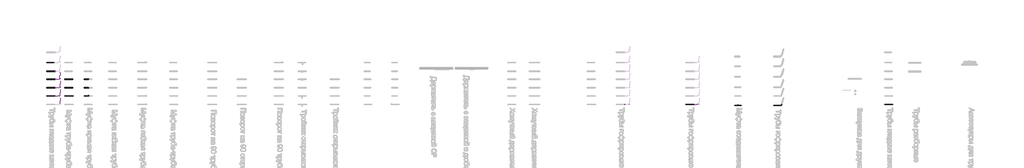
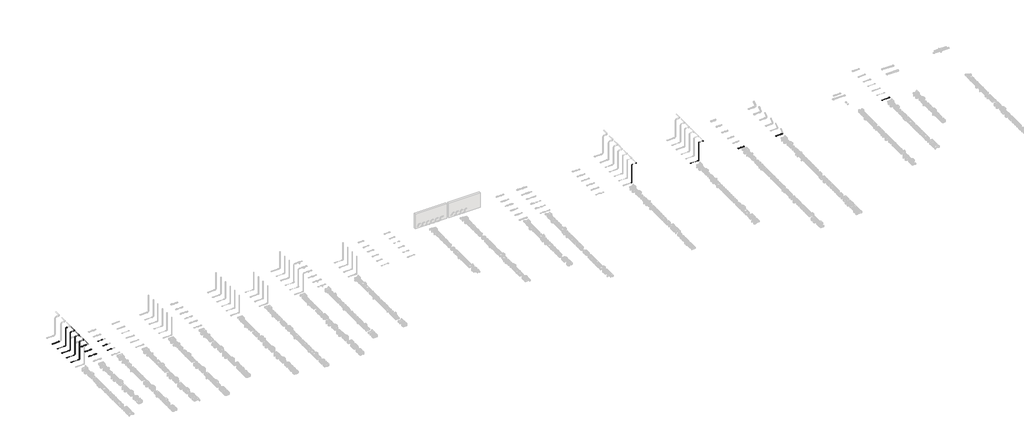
# One storey, part 2 of 33: 36 cable carrier segments, 28 cable carrier fittings.
"""IFC4 building model written with IfcOpenShell, lengths in millimetres."""

from ifc_helpers import new_model, si_unit, point, frame, frame_2d, origin, place, context, project, spatial, circle_curve, trimmed, segment, composite_curve, outline, extrude, transform, mapped, element, save
from components import cable_carrier_fitting_59e1ce25, cable_carrier_fitting_cf1a74b0, cable_carrier_fitting_2f32caac, cable_carrier_fitting_a50456ce, cable_carrier_fitting_6d3d2407, cable_carrier_fitting_577a40cd, cable_carrier_fitting_f652ca61, cable_carrier_fitting_620ca47f, cable_carrier_fitting_216e78f6, cable_carrier_fitting_60fb8931, cable_carrier_fitting_309cf5c9, cable_carrier_fitting_d8a5bbfc, cable_carrier_fitting_6d8e7e4b

model = new_model("IFC4")

# Units and contexts
model_context = context("Model", 3, world=origin())
ifc_project = project(units=[si_unit("LENGTHUNIT", "METRE", prefix="MILLI")], contexts=[model_context])

# Site, building, storey
site = spatial("IfcSite", under=ifc_project)
building = spatial("IfcBuilding", under=site)
storey = spatial("IfcBuildingStorey", under=building, Name="Уровень 1", Elevation=0.0)

# Cable carrier fittings
placement = place(None, origin())
cable_carrier_fitting_shape = cable_carrier_fitting_59e1ce25(model_context)
element("IfcCableCarrierFitting", 1, ObjectType="Муфта труба-труба GIG IEK : CTA10D-GIG20-K41-100", at=placement, inside=storey, context=model_context, shape_type="MappedRepresentation", body=[
    mapped(cable_carrier_fitting_shape, transform((5275.1189897, 1027.6255993, 45.929251), x_axis=(1.0, 0.0, 0.0), y_axis=(0.0, 1.0, 0.0), z_axis=(0.0, 0.0, 1.0))),
])
element("IfcCableCarrierFitting", 2, ObjectType="Муфта труба-труба GIG IEK : CTA10D-GIG20-K41-100", at=placement, inside=storey, context=model_context, shape_type="MappedRepresentation", body=[
    mapped(cable_carrier_fitting_shape, transform((5793.6746362, 1027.6255993, 45.929251), x_axis=(1.0, 0.0, 0.0), y_axis=(0.0, 1.0, 0.0), z_axis=(0.0, 0.0, 1.0))),
])
cable_carrier_fitting_2_shape = cable_carrier_fitting_cf1a74b0(model_context)
element("IfcCableCarrierFitting", 3, ObjectType="Муфта труба-труба GIG IEK : CTA10D-GIG25-K41-050", at=placement, inside=storey, context=model_context, shape_type="MappedRepresentation", body=[
    mapped(cable_carrier_fitting_2_shape, transform((5280.100622, 2047.6255993, 45.929251), x_axis=(1.0, 0.0, 0.0), y_axis=(0.0, 1.0, 0.0), z_axis=(0.0, 0.0, 1.0))),
])
element("IfcCableCarrierFitting", 4, ObjectType="Муфта труба-труба GIG IEK : CTA10D-GIG25-K41-050", at=placement, inside=storey, context=model_context, shape_type="MappedRepresentation", body=[
    mapped(cable_carrier_fitting_2_shape, transform((5737.4329559, 2047.6255993, 45.929251), x_axis=(1.0, 0.0, 0.0), y_axis=(0.0, 1.0, 0.0), z_axis=(0.0, 0.0, 1.0))),
])
cable_carrier_fitting_3_shape = cable_carrier_fitting_2f32caac(model_context)
element("IfcCableCarrierFitting", 5, ObjectType="Муфта труба-труба GIG IEK : CTA10D-GIG32-K41-025", at=placement, inside=storey, context=model_context, shape_type="MappedRepresentation", body=[
    mapped(cable_carrier_fitting_3_shape, transform((5302.7919038, 3107.6255993, 45.929251), x_axis=(1.0, 0.0, 0.0), y_axis=(0.0, 1.0, 0.0), z_axis=(0.0, 0.0, 1.0))),
])
element("IfcCableCarrierFitting", 6, ObjectType="Муфта труба-труба GIG IEK : CTA10D-GIG32-K41-025", at=placement, inside=storey, context=model_context, shape_type="MappedRepresentation", body=[
    mapped(cable_carrier_fitting_3_shape, transform((5694.3887422, 3107.6255993, 45.929251), x_axis=(1.0, 0.0, 0.0), y_axis=(0.0, 1.0, 0.0), z_axis=(0.0, 0.0, 1.0))),
])
cable_carrier_fitting_4_shape = cable_carrier_fitting_a50456ce(model_context)
element("IfcCableCarrierFitting", 7, ObjectType="Отвод Трубы гофрированные гибкие ПНД : Отвод Трубы гофрированные гибкие ПНД", at=placement, inside=storey, context=model_context, shape_type="MappedRepresentation", body=[
    mapped(cable_carrier_fitting_4_shape, transform((83794.4472755, -32.3744007, 45.929251), x_axis=(1.0, 0.0, 0.0), y_axis=(0.0, 0.0, 1.0), z_axis=(0.0, -1.0, 0.0))),
])
element("IfcCableCarrierFitting", 8, ObjectType="Отвод Трубы гофрированные гибкие ПНД : Отвод Трубы гофрированные гибкие ПНД", at=placement, inside=storey, context=model_context, shape_type="MappedRepresentation", body=[
    mapped(cable_carrier_fitting_4_shape, transform((83794.4472755, -32.3744007, 2545.929251), x_axis=(0.0, 0.0, 1.0), y_axis=(1.0, 0.0, 0.0), z_axis=(0.0, 1.0, 0.0))),
])
element("IfcCableCarrierFitting", 9, ObjectType="Отвод Трубы гофрированные гибкие ПНД : Отвод Трубы гофрированные гибкие ПНД", at=placement, inside=storey, context=model_context, shape_type="MappedRepresentation", body=[
    mapped(cable_carrier_fitting_4_shape, transform((84394.4472755, -32.3744007, 2545.929251), x_axis=(1.0, 0.0, 0.0), y_axis=(0.0, 1.0, 0.0), z_axis=(0.0, 0.0, 1.0))),
])
element("IfcCableCarrierFitting", 10, ObjectType="Отвод Трубы гофрированные ПВХ с зондом : Отвод Трубы гофрированные ПВХ с зондом", at=placement, inside=storey, context=model_context, shape_type="MappedRepresentation", body=[
    mapped(cable_carrier_fitting_4_shape, transform((75094.4472755, -32.3744007, 45.929251), x_axis=(1.0, 0.0, 0.0), y_axis=(0.0, 0.0, 1.0), z_axis=(0.0, -1.0, 0.0))),
])
element("IfcCableCarrierFitting", 11, ObjectType="Отвод Трубы гофрированные ПВХ с зондом : Отвод Трубы гофрированные ПВХ с зондом", at=placement, inside=storey, context=model_context, shape_type="MappedRepresentation", body=[
    mapped(cable_carrier_fitting_4_shape, transform((75094.4472755, -32.3744007, 2545.929251), x_axis=(0.0, 0.0, 1.0), y_axis=(1.0, 0.0, 0.0), z_axis=(0.0, 1.0, 0.0))),
])
element("IfcCableCarrierFitting", 12, ObjectType="Отвод Трубы гофрированные ПВХ с зондом : Отвод Трубы гофрированные ПВХ с зондом", at=placement, inside=storey, context=model_context, shape_type="MappedRepresentation", body=[
    mapped(cable_carrier_fitting_4_shape, transform((75694.4472755, -32.3744007, 2545.929251), x_axis=(1.0, 0.0, 0.0), y_axis=(0.0, 1.0, 0.0), z_axis=(0.0, 0.0, 1.0))),
])
cable_carrier_fitting_5_shape = cable_carrier_fitting_6d3d2407(model_context)
element("IfcCableCarrierFitting", 13, ObjectType="Муфта соединительная для двустенной трубы : CTA12D-M040-K02", at=placement, inside=storey, context=model_context, shape_type="MappedRepresentation", body=[
    mapped(cable_carrier_fitting_5_shape, transform((89243.3442155, -168.3163533, 45.929251), x_axis=(1.0, 0.0, 0.0), y_axis=(0.0, 1.0, 0.0), z_axis=(0.0, 0.0, 1.0))),
])
cable_carrier_fitting_6_shape = cable_carrier_fitting_577a40cd(model_context)
element("IfcCableCarrierFitting", 14, ObjectType="Муфта прямая труба-коробка BS : CTA10D-BS25-K41-050", at=placement, inside=storey, context=model_context, shape_type="MappedRepresentation", body=[
    mapped(cable_carrier_fitting_6_shape, transform((7941.490316, 2047.6255993, 45.929251), x_axis=(0.9999999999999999, 0.0, 0.0), y_axis=(0.0, 0.9999999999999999, 0.0), z_axis=(0.0, 0.0, 0.9999999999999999))),
])
cable_carrier_fitting_7_shape = cable_carrier_fitting_f652ca61(model_context)
element("IfcCableCarrierFitting", 15, ObjectType="Муфта прямая труба-коробка BS : CTA10D-BS32-K41-025", at=placement, inside=storey, context=model_context, shape_type="MappedRepresentation", body=[
    mapped(cable_carrier_fitting_7_shape, transform((7948.3854169, 3107.6255993, 45.929251), x_axis=(0.9999999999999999, 0.0, 0.0), y_axis=(0.0, 0.9999999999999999, 0.0), z_axis=(0.0, 0.0, 0.9999999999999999))),
])
cable_carrier_fitting_8_shape = cable_carrier_fitting_620ca47f(model_context)
element("IfcCableCarrierFitting", 16, ObjectType="Муфта прямая труба-коробка BS : CTA10D-BS20-K41-050", at=placement, inside=storey, context=model_context, shape_type="MappedRepresentation", body=[
    mapped(cable_carrier_fitting_8_shape, transform((7967.6618975, 1027.6255993, 45.929251), x_axis=(0.9999999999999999, 0.0, 0.0), y_axis=(0.0, 0.9999999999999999, 0.0), z_axis=(0.0, 0.0, 0.9999999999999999))),
])
cable_carrier_fitting_9_shape = cable_carrier_fitting_216e78f6(model_context)
element("IfcCableCarrierFitting", 17, ObjectType="Отвод Трубы гладкие жесткие ПВХ : Отвод Трубы гладкие жесткие ПВХ", at=placement, inside=storey, context=model_context, shape_type="MappedRepresentation", body=[
    mapped(cable_carrier_fitting_9_shape, transform((3794.4472755, 1027.6255993, 45.929251), x_axis=(1.0, 0.0, 0.0), y_axis=(0.0, 0.0, 1.0), z_axis=(0.0, -1.0, 0.0))),
])
element("IfcCableCarrierFitting", 18, ObjectType="Отвод Трубы гладкие жесткие ПВХ : Отвод Трубы гладкие жесткие ПВХ", at=placement, inside=storey, context=model_context, shape_type="MappedRepresentation", body=[
    mapped(cable_carrier_fitting_9_shape, transform((3794.4472755, 1027.6255993, 2545.929251), x_axis=(0.0, 0.0, 1.0), y_axis=(1.0, 0.0, 0.0), z_axis=(0.0, 1.0, 0.0))),
])
element("IfcCableCarrierFitting", 19, ObjectType="Отвод Трубы гладкие жесткие ПВХ : Отвод Трубы гладкие жесткие ПВХ", at=placement, inside=storey, context=model_context, shape_type="MappedRepresentation", body=[
    mapped(cable_carrier_fitting_9_shape, transform((4394.4472755, 1027.6255993, 2545.929251), x_axis=(1.0, 0.0, 0.0), y_axis=(0.0, 1.0, 0.0), z_axis=(0.0, 0.0, 1.0))),
])
cable_carrier_fitting_10_shape = cable_carrier_fitting_60fb8931(model_context)
element("IfcCableCarrierFitting", 20, ObjectType="Отвод Трубы гладкие жесткие ПВХ : Отвод Трубы гладкие жесткие ПВХ", at=placement, inside=storey, context=model_context, shape_type="MappedRepresentation", body=[
    mapped(cable_carrier_fitting_10_shape, transform((3794.4472755, 2047.6255993, 45.929251), x_axis=(1.0, 0.0, 0.0), y_axis=(0.0, 0.0, 1.0), z_axis=(0.0, -1.0, 0.0))),
])
element("IfcCableCarrierFitting", 21, ObjectType="Отвод Трубы гладкие жесткие ПВХ : Отвод Трубы гладкие жесткие ПВХ", at=placement, inside=storey, context=model_context, shape_type="MappedRepresentation", body=[
    mapped(cable_carrier_fitting_10_shape, transform((3794.4472755, 2047.6255993, 2545.929251), x_axis=(0.0, 0.0, 1.0), y_axis=(1.0, 0.0, 0.0), z_axis=(0.0, 1.0, 0.0))),
])
element("IfcCableCarrierFitting", 22, ObjectType="Отвод Трубы гладкие жесткие ПВХ : Отвод Трубы гладкие жесткие ПВХ", at=placement, inside=storey, context=model_context, shape_type="MappedRepresentation", body=[
    mapped(cable_carrier_fitting_10_shape, transform((4394.4472755, 2047.6255993, 2545.929251), x_axis=(1.0, 0.0, 0.0), y_axis=(0.0, 1.0, 0.0), z_axis=(0.0, 0.0, 1.0))),
])
cable_carrier_fitting_11_shape = cable_carrier_fitting_309cf5c9(model_context)
element("IfcCableCarrierFitting", 23, ObjectType="Отвод Трубы гладкие жесткие ПВХ : Отвод Трубы гладкие жесткие ПВХ", at=placement, inside=storey, context=model_context, shape_type="MappedRepresentation", body=[
    mapped(cable_carrier_fitting_11_shape, transform((3794.4472755, 3107.6255993, 45.929251), x_axis=(1.0, 0.0, 0.0), y_axis=(0.0, 0.0, 1.0), z_axis=(0.0, -1.0, 0.0))),
])
element("IfcCableCarrierFitting", 24, ObjectType="Отвод Трубы гладкие жесткие ПВХ : Отвод Трубы гладкие жесткие ПВХ", at=placement, inside=storey, context=model_context, shape_type="MappedRepresentation", body=[
    mapped(cable_carrier_fitting_11_shape, transform((3794.4472755, 3107.6255993, 2545.929251), x_axis=(0.0, 0.0, 1.0), y_axis=(1.0, 0.0, 0.0), z_axis=(0.0, 1.0, 0.0))),
])
element("IfcCableCarrierFitting", 25, ObjectType="Отвод Трубы гладкие жесткие ПВХ : Отвод Трубы гладкие жесткие ПВХ", at=placement, inside=storey, context=model_context, shape_type="MappedRepresentation", body=[
    mapped(cable_carrier_fitting_11_shape, transform((4394.4472755, 3107.6255993, 2545.929251), x_axis=(1.0, 0.0, 0.0), y_axis=(0.0, 1.0, 0.0), z_axis=(0.0, 0.0, 1.0))),
])
cable_carrier_fitting_12_shape = cable_carrier_fitting_d8a5bbfc(model_context)
element("IfcCableCarrierFitting", 26, ObjectType="Отвод Трубы гладкие жесткие ПВХ : Отвод Трубы гладкие жесткие ПВХ", at=placement, inside=storey, context=model_context, shape_type="MappedRepresentation", body=[
    mapped(cable_carrier_fitting_12_shape, transform((3794.4472755, 4107.6255993, 45.929251), x_axis=(1.0, 0.0, 0.0), y_axis=(0.0, 0.0, 1.0), z_axis=(0.0, -1.0, 0.0))),
])
element("IfcCableCarrierFitting", 27, ObjectType="Отвод Трубы гладкие жесткие ПВХ : Отвод Трубы гладкие жесткие ПВХ", at=placement, inside=storey, context=model_context, shape_type="MappedRepresentation", body=[
    mapped(cable_carrier_fitting_12_shape, transform((3794.4472755, 4107.6255993, 2545.929251), x_axis=(0.0, 0.0, 1.0), y_axis=(1.0, 0.0, 0.0), z_axis=(0.0, 1.0, 0.0))),
])
cable_carrier_fitting_13_shape = cable_carrier_fitting_6d8e7e4b(model_context)
element("IfcCableCarrierFitting", 28, ObjectType="Трубы гофрированные двустенные ПНД-ПВД : Трубы гофрированные двустенные ПНД-ПВД", at=placement, inside=storey, context=model_context, shape_type="MappedRepresentation", body=[
    mapped(cable_carrier_fitting_13_shape, transform((94669.1770312, -168.3163533, 45.929251), x_axis=(1.0, 0.0, 0.0), y_axis=(0.0, 0.9999999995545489, -2.984799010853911e-05), z_axis=(0.0, 2.984799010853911e-05, 0.9999999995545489))),
])

# Cable carrier segments
element("IfcCableCarrierSegment", 29, ObjectType="Трубы гладкие жесткие ПВХ", at=placement, inside=storey, context=model_context, shape_type="SweptSolid", body=[
    extrude(outline(composite_curve([segment(trimmed(circle_curve(frame_2d((2545.929251, 4394.4472755)), 8.0), [point((2545.929251, 4402.4472755))], [point((2553.929251, 4394.4472755))], False, "CARTESIAN"), True, "CONTINUOUS"), segment(trimmed(circle_curve(frame_2d((2545.929251, 4394.4472755)), 8.0), [point((2553.929251, 4394.4472755))], [point((2545.929251, 4386.4472755))], False, "CARTESIAN"), True, "CONTINUOUS"), segment(trimmed(circle_curve(frame_2d((2545.929251, 4394.4472755)), 8.0), [point((2545.929251, 4386.4472755))], [point((2537.929251, 4394.4472755))], False, "CARTESIAN"), True, "CONTINUOUS"), segment(trimmed(circle_curve(frame_2d((2545.929251, 4394.4472755)), 8.0), [point((2537.929251, 4394.4472755))], [point((2545.929251, 4402.4472755))], False, "CARTESIAN"), True, "CONTINUOUS")], self_intersect=False)), frame((0.0, 34.7069993, 0.0), z_axis=(0.0, 1.0, 0.0), x_axis=(0.0, 0.0, 1.0)), (0.0, 0.0, 1.0), 752.9186),
])
element("IfcCableCarrierSegment", 30, ObjectType="Трубы гладкие жесткие ПВХ", at=placement, inside=storey, context=model_context, shape_type="SweptSolid", body=[
    extrude(outline(composite_curve([segment(trimmed(circle_curve(frame_2d((1027.6255993, 45.929251)), 10.0), [point((1017.6255993, 45.929251))], [point((1027.6255993, 55.929251))], False, "CARTESIAN"), True, "CONTINUOUS"), segment(trimmed(circle_curve(frame_2d((1027.6255993, 45.929251)), 10.0), [point((1027.6255993, 55.929251))], [point((1037.6255993, 45.929251))], False, "CARTESIAN"), True, "CONTINUOUS"), segment(trimmed(circle_curve(frame_2d((1027.6255993, 45.929251)), 10.0), [point((1037.6255993, 45.929251))], [point((1027.6255993, 35.929251))], False, "CARTESIAN"), True, "CONTINUOUS"), segment(trimmed(circle_curve(frame_2d((1027.6255993, 45.929251)), 10.0), [point((1027.6255993, 35.929251))], [point((1017.6255993, 45.929251))], False, "CARTESIAN"), True, "CONTINUOUS")], self_intersect=False)), frame((2694.4472755, 0.0, 0.0), z_axis=(1.0, 0.0, 0.0), x_axis=(0.0, 1.0, 0.0)), (0.0, 0.0, 1.0), 1016.5102),
])
element("IfcCableCarrierSegment", 31, ObjectType="Трубы гладкие жесткие ПВХ", at=placement, inside=storey, context=model_context, shape_type="SweptSolid", body=[
    extrude(outline(composite_curve([segment(trimmed(circle_curve(frame_2d((1027.6255993, 2545.929251)), 10.0), [point((1017.6255993, 2545.929251))], [point((1027.6255993, 2555.929251))], False, "CARTESIAN"), True, "CONTINUOUS"), segment(trimmed(circle_curve(frame_2d((1027.6255993, 2545.929251)), 10.0), [point((1027.6255993, 2555.929251))], [point((1037.6255993, 2545.929251))], False, "CARTESIAN"), True, "CONTINUOUS"), segment(trimmed(circle_curve(frame_2d((1027.6255993, 2545.929251)), 10.0), [point((1037.6255993, 2545.929251))], [point((1027.6255993, 2535.929251))], False, "CARTESIAN"), True, "CONTINUOUS"), segment(trimmed(circle_curve(frame_2d((1027.6255993, 2545.929251)), 10.0), [point((1027.6255993, 2535.929251))], [point((1017.6255993, 2545.929251))], False, "CARTESIAN"), True, "CONTINUOUS")], self_intersect=False)), frame((3877.9370755, 0.0, 0.0), z_axis=(1.0, 0.0, 0.0), x_axis=(0.0, 1.0, 0.0)), (0.0, 0.0, 1.0), 433.0204),
])
element("IfcCableCarrierSegment", 32, ObjectType="Трубы гладкие жесткие ПВХ", at=placement, inside=storey, context=model_context, shape_type="SweptSolid", body=[
    extrude(outline(composite_curve([segment(trimmed(circle_curve(frame_2d((3794.4472755, 1027.6255993)), 10.0), [point((3784.4472755, 1027.6255993))], [point((3794.4472755, 1037.6255993))], False, "CARTESIAN"), True, "CONTINUOUS"), segment(trimmed(circle_curve(frame_2d((3794.4472755, 1027.6255993)), 10.0), [point((3794.4472755, 1037.6255993))], [point((3804.4472755, 1027.6255993))], False, "CARTESIAN"), True, "CONTINUOUS"), segment(trimmed(circle_curve(frame_2d((3794.4472755, 1027.6255993)), 10.0), [point((3804.4472755, 1027.6255993))], [point((3794.4472755, 1017.6255993))], False, "CARTESIAN"), True, "CONTINUOUS"), segment(trimmed(circle_curve(frame_2d((3794.4472755, 1027.6255993)), 10.0), [point((3794.4472755, 1017.6255993))], [point((3784.4472755, 1027.6255993))], False, "CARTESIAN"), True, "CONTINUOUS")], self_intersect=False)), frame((0.0, 0.0, 129.419051), z_axis=(0.0, 0.0, 1.0), x_axis=(1.0, 0.0, 0.0)), (0.0, 0.0, 1.0), 2333.0204),
])
element("IfcCableCarrierSegment", 33, ObjectType="Трубы гладкие жесткие ПВХ", at=placement, inside=storey, context=model_context, shape_type="SweptSolid", body=[
    extrude(outline(composite_curve([segment(trimmed(circle_curve(frame_2d((2545.929251, 4394.4472755)), 10.0), [point((2545.929251, 4404.4472755))], [point((2555.929251, 4394.4472755))], False, "CARTESIAN"), True, "CONTINUOUS"), segment(trimmed(circle_curve(frame_2d((2545.929251, 4394.4472755)), 10.0), [point((2555.929251, 4394.4472755))], [point((2545.929251, 4384.4472755))], False, "CARTESIAN"), True, "CONTINUOUS"), segment(trimmed(circle_curve(frame_2d((2545.929251, 4394.4472755)), 10.0), [point((2545.929251, 4384.4472755))], [point((2535.929251, 4394.4472755))], False, "CARTESIAN"), True, "CONTINUOUS"), segment(trimmed(circle_curve(frame_2d((2545.929251, 4394.4472755)), 10.0), [point((2535.929251, 4394.4472755))], [point((2545.929251, 4404.4472755))], False, "CARTESIAN"), True, "CONTINUOUS")], self_intersect=False)), frame((0.0, 1111.1153993, 0.0), z_axis=(0.0, 1.0, 0.0), x_axis=(0.0, 0.0, 1.0)), (0.0, 0.0, 1.0), 736.5102),
])
element("IfcCableCarrierSegment", 34, ObjectType="Трубы гладкие жесткие ПВХ", at=placement, inside=storey, context=model_context, shape_type="SweptSolid", body=[
    extrude(outline(composite_curve([segment(trimmed(circle_curve(frame_2d((2047.6255993, 45.929251)), 12.5), [point((2035.1255993, 45.929251))], [point((2047.6255993, 58.429251))], False, "CARTESIAN"), True, "CONTINUOUS"), segment(trimmed(circle_curve(frame_2d((2047.6255993, 45.929251)), 12.5), [point((2047.6255993, 58.429251))], [point((2060.1255993, 45.929251))], False, "CARTESIAN"), True, "CONTINUOUS"), segment(trimmed(circle_curve(frame_2d((2047.6255993, 45.929251)), 12.5), [point((2060.1255993, 45.929251))], [point((2047.6255993, 33.429251))], False, "CARTESIAN"), True, "CONTINUOUS"), segment(trimmed(circle_curve(frame_2d((2047.6255993, 45.929251)), 12.5), [point((2047.6255993, 33.429251))], [point((2035.1255993, 45.929251))], False, "CARTESIAN"), True, "CONTINUOUS")], self_intersect=False)), frame((2694.4472755, 0.0, 0.0), z_axis=(1.0, 0.0, 0.0), x_axis=(0.0, 1.0, 0.0)), (0.0, 0.0, 1.0), 997.1046),
])
element("IfcCableCarrierSegment", 35, ObjectType="Трубы гладкие жесткие ПВХ", at=placement, inside=storey, context=model_context, shape_type="SweptSolid", body=[
    extrude(outline(composite_curve([segment(trimmed(circle_curve(frame_2d((2047.6255993, 2545.929251)), 12.5), [point((2035.1255993, 2545.929251))], [point((2047.6255993, 2558.429251))], False, "CARTESIAN"), True, "CONTINUOUS"), segment(trimmed(circle_curve(frame_2d((2047.6255993, 2545.929251)), 12.5), [point((2047.6255993, 2558.429251))], [point((2060.1255993, 2545.929251))], False, "CARTESIAN"), True, "CONTINUOUS"), segment(trimmed(circle_curve(frame_2d((2047.6255993, 2545.929251)), 12.5), [point((2060.1255993, 2545.929251))], [point((2047.6255993, 2533.429251))], False, "CARTESIAN"), True, "CONTINUOUS"), segment(trimmed(circle_curve(frame_2d((2047.6255993, 2545.929251)), 12.5), [point((2047.6255993, 2533.429251))], [point((2035.1255993, 2545.929251))], False, "CARTESIAN"), True, "CONTINUOUS")], self_intersect=False)), frame((3897.3426755, 0.0, 0.0), z_axis=(1.0, 0.0, 0.0), x_axis=(0.0, 1.0, 0.0)), (0.0, 0.0, 1.0), 394.2092),
])
element("IfcCableCarrierSegment", 36, ObjectType="Трубы гладкие жесткие ПВХ", at=placement, inside=storey, context=model_context, shape_type="SweptSolid", body=[
    extrude(outline(composite_curve([segment(trimmed(circle_curve(frame_2d((3794.4472755, 2047.6255993)), 12.5), [point((3781.9472755, 2047.6255993))], [point((3794.4472755, 2060.1255993))], False, "CARTESIAN"), True, "CONTINUOUS"), segment(trimmed(circle_curve(frame_2d((3794.4472755, 2047.6255993)), 12.5), [point((3794.4472755, 2060.1255993))], [point((3806.9472755, 2047.6255993))], False, "CARTESIAN"), True, "CONTINUOUS"), segment(trimmed(circle_curve(frame_2d((3794.4472755, 2047.6255993)), 12.5), [point((3806.9472755, 2047.6255993))], [point((3794.4472755, 2035.1255993))], False, "CARTESIAN"), True, "CONTINUOUS"), segment(trimmed(circle_curve(frame_2d((3794.4472755, 2047.6255993)), 12.5), [point((3794.4472755, 2035.1255993))], [point((3781.9472755, 2047.6255993))], False, "CARTESIAN"), True, "CONTINUOUS")], self_intersect=False)), frame((0.0, 0.0, 148.824651), z_axis=(0.0, 0.0, 1.0), x_axis=(1.0, 0.0, 0.0)), (0.0, 0.0, 1.0), 2294.2092),
])
element("IfcCableCarrierSegment", 37, ObjectType="Трубы гладкие жесткие ПВХ", at=placement, inside=storey, context=model_context, shape_type="SweptSolid", body=[
    extrude(outline(composite_curve([segment(trimmed(circle_curve(frame_2d((2545.929251, 4394.4472755)), 12.5), [point((2545.929251, 4406.9472755))], [point((2558.429251, 4394.4472755))], False, "CARTESIAN"), True, "CONTINUOUS"), segment(trimmed(circle_curve(frame_2d((2545.929251, 4394.4472755)), 12.5), [point((2558.429251, 4394.4472755))], [point((2545.929251, 4381.9472755))], False, "CARTESIAN"), True, "CONTINUOUS"), segment(trimmed(circle_curve(frame_2d((2545.929251, 4394.4472755)), 12.5), [point((2545.929251, 4381.9472755))], [point((2533.429251, 4394.4472755))], False, "CARTESIAN"), True, "CONTINUOUS"), segment(trimmed(circle_curve(frame_2d((2545.929251, 4394.4472755)), 12.5), [point((2533.429251, 4394.4472755))], [point((2545.929251, 4406.9472755))], False, "CARTESIAN"), True, "CONTINUOUS")], self_intersect=False)), frame((0.0, 2150.5209993, 0.0), z_axis=(0.0, 1.0, 0.0), x_axis=(0.0, 0.0, 1.0)), (0.0, 0.0, 1.0), 717.1046),
])
element("IfcCableCarrierSegment", 38, ObjectType="Трубы гладкие жесткие ПВХ", at=placement, inside=storey, context=model_context, shape_type="SweptSolid", body=[
    extrude(outline(composite_curve([segment(trimmed(circle_curve(frame_2d((3107.6255993, 45.929251)), 16.0), [point((3091.6255993, 45.929251))], [point((3107.6255993, 61.929251))], False, "CARTESIAN"), True, "CONTINUOUS"), segment(trimmed(circle_curve(frame_2d((3107.6255993, 45.929251)), 16.0), [point((3107.6255993, 61.929251))], [point((3123.6255993, 45.929251))], False, "CARTESIAN"), True, "CONTINUOUS"), segment(trimmed(circle_curve(frame_2d((3107.6255993, 45.929251)), 16.0), [point((3123.6255993, 45.929251))], [point((3107.6255993, 29.929251))], False, "CARTESIAN"), True, "CONTINUOUS"), segment(trimmed(circle_curve(frame_2d((3107.6255993, 45.929251)), 16.0), [point((3107.6255993, 29.929251))], [point((3091.6255993, 45.929251))], False, "CARTESIAN"), True, "CONTINUOUS")], self_intersect=False)), frame((2694.4472755, 0.0, 0.0), z_axis=(1.0, 0.0, 0.0), x_axis=(0.0, 1.0, 0.0)), (0.0, 0.0, 1.0), 971.73),
])
element("IfcCableCarrierSegment", 39, ObjectType="Трубы гладкие жесткие ПВХ", at=placement, inside=storey, context=model_context, shape_type="SweptSolid", body=[
    extrude(outline(composite_curve([segment(trimmed(circle_curve(frame_2d((3107.6255993, 2545.929251)), 16.0), [point((3091.6255993, 2545.929251))], [point((3107.6255993, 2561.929251))], False, "CARTESIAN"), True, "CONTINUOUS"), segment(trimmed(circle_curve(frame_2d((3107.6255993, 2545.929251)), 16.0), [point((3107.6255993, 2561.929251))], [point((3123.6255993, 2545.929251))], False, "CARTESIAN"), True, "CONTINUOUS"), segment(trimmed(circle_curve(frame_2d((3107.6255993, 2545.929251)), 16.0), [point((3123.6255993, 2545.929251))], [point((3107.6255993, 2529.929251))], False, "CARTESIAN"), True, "CONTINUOUS"), segment(trimmed(circle_curve(frame_2d((3107.6255993, 2545.929251)), 16.0), [point((3107.6255993, 2529.929251))], [point((3091.6255993, 2545.929251))], False, "CARTESIAN"), True, "CONTINUOUS")], self_intersect=False)), frame((3922.7172755, 0.0, 0.0), z_axis=(1.0, 0.0, 0.0), x_axis=(0.0, 1.0, 0.0)), (0.0, 0.0, 1.0), 343.46),
])
element("IfcCableCarrierSegment", 40, ObjectType="Трубы гладкие жесткие ПВХ", at=placement, inside=storey, context=model_context, shape_type="SweptSolid", body=[
    extrude(outline(composite_curve([segment(trimmed(circle_curve(frame_2d((3794.4472755, 3107.6255993)), 16.0), [point((3778.4472755, 3107.6255993))], [point((3794.4472755, 3123.6255993))], False, "CARTESIAN"), True, "CONTINUOUS"), segment(trimmed(circle_curve(frame_2d((3794.4472755, 3107.6255993)), 16.0), [point((3794.4472755, 3123.6255993))], [point((3810.4472755, 3107.6255993))], False, "CARTESIAN"), True, "CONTINUOUS"), segment(trimmed(circle_curve(frame_2d((3794.4472755, 3107.6255993)), 16.0), [point((3810.4472755, 3107.6255993))], [point((3794.4472755, 3091.6255993))], False, "CARTESIAN"), True, "CONTINUOUS"), segment(trimmed(circle_curve(frame_2d((3794.4472755, 3107.6255993)), 16.0), [point((3794.4472755, 3091.6255993))], [point((3778.4472755, 3107.6255993))], False, "CARTESIAN"), True, "CONTINUOUS")], self_intersect=False)), frame((0.0, 0.0, 174.199251), z_axis=(0.0, 0.0, 1.0), x_axis=(1.0, 0.0, 0.0)), (0.0, 0.0, 1.0), 2243.46),
])
element("IfcCableCarrierSegment", 41, ObjectType="Трубы гладкие жесткие ПВХ", at=placement, inside=storey, context=model_context, shape_type="SweptSolid", body=[
    extrude(outline(composite_curve([segment(trimmed(circle_curve(frame_2d((2545.929251, 4394.4472755)), 16.0), [point((2545.929251, 4410.4472755))], [point((2561.929251, 4394.4472755))], False, "CARTESIAN"), True, "CONTINUOUS"), segment(trimmed(circle_curve(frame_2d((2545.929251, 4394.4472755)), 16.0), [point((2561.929251, 4394.4472755))], [point((2545.929251, 4378.4472755))], False, "CARTESIAN"), True, "CONTINUOUS"), segment(trimmed(circle_curve(frame_2d((2545.929251, 4394.4472755)), 16.0), [point((2545.929251, 4378.4472755))], [point((2529.929251, 4394.4472755))], False, "CARTESIAN"), True, "CONTINUOUS"), segment(trimmed(circle_curve(frame_2d((2545.929251, 4394.4472755)), 16.0), [point((2529.929251, 4394.4472755))], [point((2545.929251, 4410.4472755))], False, "CARTESIAN"), True, "CONTINUOUS")], self_intersect=False)), frame((0.0, 3235.8955993, 0.0), z_axis=(0.0, 1.0, 0.0), x_axis=(0.0, 0.0, 1.0)), (0.0, 0.0, 1.0), 691.73),
])
element("IfcCableCarrierSegment", 42, ObjectType="Трубы гладкие жесткие ПВХ", at=placement, inside=storey, context=model_context, shape_type="SweptSolid", body=[
    extrude(outline(composite_curve([segment(trimmed(circle_curve(frame_2d((4107.6255993, 45.929251)), 20.0), [point((4087.6255993, 45.929251))], [point((4107.6255993, 65.929251))], False, "CARTESIAN"), True, "CONTINUOUS"), segment(trimmed(circle_curve(frame_2d((4107.6255993, 45.929251)), 20.0), [point((4107.6255993, 65.929251))], [point((4127.6255993, 45.929251))], False, "CARTESIAN"), True, "CONTINUOUS"), segment(trimmed(circle_curve(frame_2d((4107.6255993, 45.929251)), 20.0), [point((4127.6255993, 45.929251))], [point((4107.6255993, 25.929251))], False, "CARTESIAN"), True, "CONTINUOUS"), segment(trimmed(circle_curve(frame_2d((4107.6255993, 45.929251)), 20.0), [point((4107.6255993, 25.929251))], [point((4087.6255993, 45.929251))], False, "CARTESIAN"), True, "CONTINUOUS")], self_intersect=False)), frame((2694.4472755, 0.0, 0.0), z_axis=(1.0, 0.0, 0.0), x_axis=(0.0, 1.0, 0.0)), (0.0, 0.0, 1.0), 943.917),
])
element("IfcCableCarrierSegment", 43, ObjectType="Трубы гладкие жесткие ПВХ", at=placement, inside=storey, context=model_context, shape_type="SweptSolid", body=[
    extrude(outline(composite_curve([segment(trimmed(circle_curve(frame_2d((3794.4472755, 4107.6255993)), 20.0), [point((3774.4472755, 4107.6255993))], [point((3794.4472755, 4127.6255993))], False, "CARTESIAN"), True, "CONTINUOUS"), segment(trimmed(circle_curve(frame_2d((3794.4472755, 4107.6255993)), 20.0), [point((3794.4472755, 4127.6255993))], [point((3814.4472755, 4107.6255993))], False, "CARTESIAN"), True, "CONTINUOUS"), segment(trimmed(circle_curve(frame_2d((3794.4472755, 4107.6255993)), 20.0), [point((3814.4472755, 4107.6255993))], [point((3794.4472755, 4087.6255993))], False, "CARTESIAN"), True, "CONTINUOUS"), segment(trimmed(circle_curve(frame_2d((3794.4472755, 4107.6255993)), 20.0), [point((3794.4472755, 4087.6255993))], [point((3774.4472755, 4107.6255993))], False, "CARTESIAN"), True, "CONTINUOUS")], self_intersect=False)), frame((0.0, 0.0, 202.012251), z_axis=(0.0, 0.0, 1.0), x_axis=(1.0, 0.0, 0.0)), (0.0, 0.0, 1.0), 2187.834),
])
element("IfcCableCarrierSegment", 44, ObjectType="Трубы гладкие жесткие ПВХ", at=placement, inside=storey, context=model_context, shape_type="SweptSolid", body=[
    extrude(outline(composite_curve([segment(trimmed(circle_curve(frame_2d((5207.6255993, 45.929251)), 25.0), [point((5182.6255993, 45.929251))], [point((5207.6255993, 70.929251))], False, "CARTESIAN"), True, "CONTINUOUS"), segment(trimmed(circle_curve(frame_2d((5207.6255993, 45.929251)), 25.0), [point((5207.6255993, 70.929251))], [point((5232.6255993, 45.929251))], False, "CARTESIAN"), True, "CONTINUOUS"), segment(trimmed(circle_curve(frame_2d((5207.6255993, 45.929251)), 25.0), [point((5232.6255993, 45.929251))], [point((5207.6255993, 20.929251))], False, "CARTESIAN"), True, "CONTINUOUS"), segment(trimmed(circle_curve(frame_2d((5207.6255993, 45.929251)), 25.0), [point((5207.6255993, 20.929251))], [point((5182.6255993, 45.929251))], False, "CARTESIAN"), True, "CONTINUOUS")], self_intersect=False)), frame((2694.4472755, 0.0, 0.0), z_axis=(1.0, 0.0, 0.0), x_axis=(0.0, 1.0, 0.0)), (0.0, 0.0, 1.0), 909.5254),
])
element("IfcCableCarrierSegment", 45, ObjectType="Трубы гладкие жесткие ПВХ", at=placement, inside=storey, context=model_context, shape_type="SweptSolid", body=[
    extrude(outline(composite_curve([segment(trimmed(circle_curve(frame_2d((1027.6255993, 45.929251)), 10.0), [point((1017.6255993, 45.929251))], [point((1027.6255993, 55.929251))], False, "CARTESIAN"), True, "CONTINUOUS"), segment(trimmed(circle_curve(frame_2d((1027.6255993, 45.929251)), 10.0), [point((1027.6255993, 55.929251))], [point((1037.6255993, 45.929251))], False, "CARTESIAN"), True, "CONTINUOUS"), segment(trimmed(circle_curve(frame_2d((1027.6255993, 45.929251)), 10.0), [point((1037.6255993, 45.929251))], [point((1027.6255993, 35.929251))], False, "CARTESIAN"), True, "CONTINUOUS"), segment(trimmed(circle_curve(frame_2d((1027.6255993, 45.929251)), 10.0), [point((1027.6255993, 35.929251))], [point((1017.6255993, 45.929251))], False, "CARTESIAN"), True, "CONTINUOUS")], self_intersect=False)), frame((5798.6746362, 0.0, 0.0), z_axis=(1.0, 0.0, 0.0), x_axis=(0.0, 1.0, 0.0)), (0.0, 0.0, 1.0), 212.2828393),
])
element("IfcCableCarrierSegment", 46, ObjectType="Трубы гладкие жесткие ПВХ", at=placement, inside=storey, context=model_context, shape_type="SweptSolid", body=[
    extrude(outline(composite_curve([segment(trimmed(circle_curve(frame_2d((2047.6255993, 45.929251)), 12.5), [point((2035.1255993, 45.929251))], [point((2047.6255993, 58.429251))], False, "CARTESIAN"), True, "CONTINUOUS"), segment(trimmed(circle_curve(frame_2d((2047.6255993, 45.929251)), 12.5), [point((2047.6255993, 58.429251))], [point((2060.1255993, 45.929251))], False, "CARTESIAN"), True, "CONTINUOUS"), segment(trimmed(circle_curve(frame_2d((2047.6255993, 45.929251)), 12.5), [point((2060.1255993, 45.929251))], [point((2047.6255993, 33.429251))], False, "CARTESIAN"), True, "CONTINUOUS"), segment(trimmed(circle_curve(frame_2d((2047.6255993, 45.929251)), 12.5), [point((2047.6255993, 33.429251))], [point((2035.1255993, 45.929251))], False, "CARTESIAN"), True, "CONTINUOUS")], self_intersect=False)), frame((5742.4329559, 0.0, 0.0), z_axis=(1.0, 0.0, 0.0), x_axis=(0.0, 1.0, 0.0)), (0.0, 0.0, 1.0), 249.1189196),
])
element("IfcCableCarrierSegment", 47, ObjectType="Трубы гладкие жесткие ПВХ", at=placement, inside=storey, context=model_context, shape_type="SweptSolid", body=[
    extrude(outline(composite_curve([segment(trimmed(circle_curve(frame_2d((3107.6255993, 45.929251)), 16.0), [point((3091.6255993, 45.929251))], [point((3107.6255993, 61.929251))], False, "CARTESIAN"), True, "CONTINUOUS"), segment(trimmed(circle_curve(frame_2d((3107.6255993, 45.929251)), 16.0), [point((3107.6255993, 61.929251))], [point((3123.6255993, 45.929251))], False, "CARTESIAN"), True, "CONTINUOUS"), segment(trimmed(circle_curve(frame_2d((3107.6255993, 45.929251)), 16.0), [point((3123.6255993, 45.929251))], [point((3107.6255993, 29.929251))], False, "CARTESIAN"), True, "CONTINUOUS"), segment(trimmed(circle_curve(frame_2d((3107.6255993, 45.929251)), 16.0), [point((3107.6255993, 29.929251))], [point((3091.6255993, 45.929251))], False, "CARTESIAN"), True, "CONTINUOUS")], self_intersect=False)), frame((5699.3887422, 0.0, 0.0), z_axis=(1.0, 0.0, 0.0), x_axis=(0.0, 1.0, 0.0)), (0.0, 0.0, 1.0), 266.7885333),
])
element("IfcCableCarrierSegment", 48, ObjectType="Трубы гладкие жесткие ПВХ", at=placement, inside=storey, context=model_context, shape_type="SweptSolid", body=[
    extrude(outline(composite_curve([segment(trimmed(circle_curve(frame_2d((1027.6255993, 45.929251)), 10.0), [point((1017.6255993, 45.929251))], [point((1027.6255993, 55.929251))], False, "CARTESIAN"), True, "CONTINUOUS"), segment(trimmed(circle_curve(frame_2d((1027.6255993, 45.929251)), 10.0), [point((1027.6255993, 55.929251))], [point((1037.6255993, 45.929251))], False, "CARTESIAN"), True, "CONTINUOUS"), segment(trimmed(circle_curve(frame_2d((1027.6255993, 45.929251)), 10.0), [point((1037.6255993, 45.929251))], [point((1027.6255993, 35.929251))], False, "CARTESIAN"), True, "CONTINUOUS"), segment(trimmed(circle_curve(frame_2d((1027.6255993, 45.929251)), 10.0), [point((1027.6255993, 35.929251))], [point((1017.6255993, 45.929251))], False, "CARTESIAN"), True, "CONTINUOUS")], self_intersect=False)), frame((4994.4472755, 0.0, 0.0), z_axis=(1.0, 0.0, 0.0), x_axis=(0.0, 1.0, 0.0)), (0.0, 0.0, 1.0), 275.6717142),
])
element("IfcCableCarrierSegment", 49, ObjectType="Трубы гладкие жесткие ПВХ", at=placement, inside=storey, context=model_context, shape_type="SweptSolid", body=[
    extrude(outline(composite_curve([segment(trimmed(circle_curve(frame_2d((1027.6255993, 45.929251)), 10.0), [point((1017.6255993, 45.929251))], [point((1027.6255993, 55.929251))], False, "CARTESIAN"), True, "CONTINUOUS"), segment(trimmed(circle_curve(frame_2d((1027.6255993, 45.929251)), 10.0), [point((1027.6255993, 55.929251))], [point((1037.6255993, 45.929251))], False, "CARTESIAN"), True, "CONTINUOUS"), segment(trimmed(circle_curve(frame_2d((1027.6255993, 45.929251)), 10.0), [point((1037.6255993, 45.929251))], [point((1027.6255993, 35.929251))], False, "CARTESIAN"), True, "CONTINUOUS"), segment(trimmed(circle_curve(frame_2d((1027.6255993, 45.929251)), 10.0), [point((1027.6255993, 35.929251))], [point((1017.6255993, 45.929251))], False, "CARTESIAN"), True, "CONTINUOUS")], self_intersect=False)), frame((5280.1189897, 0.0, 0.0), z_axis=(1.0, 0.0, 0.0), x_axis=(0.0, 1.0, 0.0)), (0.0, 0.0, 1.0), 508.5556465),
])
element("IfcCableCarrierSegment", 50, ObjectType="Трубы гладкие жесткие ПВХ", at=placement, inside=storey, context=model_context, shape_type="SweptSolid", body=[
    extrude(outline(composite_curve([segment(trimmed(circle_curve(frame_2d((2047.6255993, 45.929251)), 12.5), [point((2035.1255993, 45.929251))], [point((2047.6255993, 58.429251))], False, "CARTESIAN"), True, "CONTINUOUS"), segment(trimmed(circle_curve(frame_2d((2047.6255993, 45.929251)), 12.5), [point((2047.6255993, 58.429251))], [point((2060.1255993, 45.929251))], False, "CARTESIAN"), True, "CONTINUOUS"), segment(trimmed(circle_curve(frame_2d((2047.6255993, 45.929251)), 12.5), [point((2060.1255993, 45.929251))], [point((2047.6255993, 33.429251))], False, "CARTESIAN"), True, "CONTINUOUS"), segment(trimmed(circle_curve(frame_2d((2047.6255993, 45.929251)), 12.5), [point((2047.6255993, 33.429251))], [point((2035.1255993, 45.929251))], False, "CARTESIAN"), True, "CONTINUOUS")], self_intersect=False)), frame((4994.4472755, 0.0, 0.0), z_axis=(1.0, 0.0, 0.0), x_axis=(0.0, 1.0, 0.0)), (0.0, 0.0, 1.0), 280.6533466),
])
element("IfcCableCarrierSegment", 51, ObjectType="Трубы гладкие жесткие ПВХ", at=placement, inside=storey, context=model_context, shape_type="SweptSolid", body=[
    extrude(outline(composite_curve([segment(trimmed(circle_curve(frame_2d((2047.6255993, 45.929251)), 12.5), [point((2035.1255993, 45.929251))], [point((2047.6255993, 58.429251))], False, "CARTESIAN"), True, "CONTINUOUS"), segment(trimmed(circle_curve(frame_2d((2047.6255993, 45.929251)), 12.5), [point((2047.6255993, 58.429251))], [point((2060.1255993, 45.929251))], False, "CARTESIAN"), True, "CONTINUOUS"), segment(trimmed(circle_curve(frame_2d((2047.6255993, 45.929251)), 12.5), [point((2060.1255993, 45.929251))], [point((2047.6255993, 33.429251))], False, "CARTESIAN"), True, "CONTINUOUS"), segment(trimmed(circle_curve(frame_2d((2047.6255993, 45.929251)), 12.5), [point((2047.6255993, 33.429251))], [point((2035.1255993, 45.929251))], False, "CARTESIAN"), True, "CONTINUOUS")], self_intersect=False)), frame((5285.100622, 0.0, 0.0), z_axis=(1.0, 0.0, 0.0), x_axis=(0.0, 1.0, 0.0)), (0.0, 0.0, 1.0), 447.3323338),
])
element("IfcCableCarrierSegment", 52, ObjectType="Трубы гладкие жесткие ПВХ", at=placement, inside=storey, context=model_context, shape_type="SweptSolid", body=[
    extrude(outline(composite_curve([segment(trimmed(circle_curve(frame_2d((3107.6255993, 45.929251)), 16.0), [point((3091.6255993, 45.929251))], [point((3107.6255993, 61.929251))], False, "CARTESIAN"), True, "CONTINUOUS"), segment(trimmed(circle_curve(frame_2d((3107.6255993, 45.929251)), 16.0), [point((3107.6255993, 61.929251))], [point((3123.6255993, 45.929251))], False, "CARTESIAN"), True, "CONTINUOUS"), segment(trimmed(circle_curve(frame_2d((3107.6255993, 45.929251)), 16.0), [point((3123.6255993, 45.929251))], [point((3107.6255993, 29.929251))], False, "CARTESIAN"), True, "CONTINUOUS"), segment(trimmed(circle_curve(frame_2d((3107.6255993, 45.929251)), 16.0), [point((3107.6255993, 29.929251))], [point((3091.6255993, 45.929251))], False, "CARTESIAN"), True, "CONTINUOUS")], self_intersect=False)), frame((4994.4472755, 0.0, 0.0), z_axis=(1.0, 0.0, 0.0), x_axis=(0.0, 1.0, 0.0)), (0.0, 0.0, 1.0), 303.3446283),
])
element("IfcCableCarrierSegment", 53, ObjectType="Трубы гладкие жесткие ПВХ", at=placement, inside=storey, context=model_context, shape_type="SweptSolid", body=[
    extrude(outline(composite_curve([segment(trimmed(circle_curve(frame_2d((3107.6255993, 45.929251)), 16.0), [point((3091.6255993, 45.929251))], [point((3107.6255993, 61.929251))], False, "CARTESIAN"), True, "CONTINUOUS"), segment(trimmed(circle_curve(frame_2d((3107.6255993, 45.929251)), 16.0), [point((3107.6255993, 61.929251))], [point((3123.6255993, 45.929251))], False, "CARTESIAN"), True, "CONTINUOUS"), segment(trimmed(circle_curve(frame_2d((3107.6255993, 45.929251)), 16.0), [point((3123.6255993, 45.929251))], [point((3107.6255993, 29.929251))], False, "CARTESIAN"), True, "CONTINUOUS"), segment(trimmed(circle_curve(frame_2d((3107.6255993, 45.929251)), 16.0), [point((3107.6255993, 29.929251))], [point((3091.6255993, 45.929251))], False, "CARTESIAN"), True, "CONTINUOUS")], self_intersect=False)), frame((5307.7919038, 0.0, 0.0), z_axis=(1.0, 0.0, 0.0), x_axis=(0.0, 1.0, 0.0)), (0.0, 0.0, 1.0), 381.5968384),
])
element("IfcCableCarrierSegment", 54, ObjectType="Трубы технические гладкие ПНД", at=placement, inside=storey, context=model_context, shape_type="SweptSolid", body=[
    extrude(outline(composite_curve([segment(trimmed(circle_curve(frame_2d((-32.3744007, 45.929251)), 8.0), [point((-40.3744007, 45.929251))], [point((-32.3744007, 53.929251))], False, "CARTESIAN"), True, "CONTINUOUS"), segment(trimmed(circle_curve(frame_2d((-32.3744007, 45.929251)), 8.0), [point((-32.3744007, 53.929251))], [point((-24.3744007, 45.929251))], False, "CARTESIAN"), True, "CONTINUOUS"), segment(trimmed(circle_curve(frame_2d((-32.3744007, 45.929251)), 8.0), [point((-24.3744007, 45.929251))], [point((-32.3744007, 37.929251))], False, "CARTESIAN"), True, "CONTINUOUS"), segment(trimmed(circle_curve(frame_2d((-32.3744007, 45.929251)), 8.0), [point((-32.3744007, 37.929251))], [point((-40.3744007, 45.929251))], False, "CARTESIAN"), True, "CONTINUOUS")], self_intersect=False)), frame((107594.4472755, 0.0, 0.0), z_axis=(1.0, 0.0, 0.0), x_axis=(0.0, 1.0, 0.0)), (0.0, 0.0, 1.0), 1032.9186),
])
element("IfcCableCarrierSegment", 55, ObjectType="Трубы гофрированные двустенные ПНД/ПВД", at=placement, inside=storey, context=model_context, shape_type="SweptSolid", body=[
    extrude(outline(composite_curve([segment(trimmed(circle_curve(frame_2d((-168.3163533, 45.929251)), 20.0), [point((-188.3163533, 45.929251))], [point((-168.3163533, 65.929251))], False, "CARTESIAN"), True, "CONTINUOUS"), segment(trimmed(circle_curve(frame_2d((-168.3163533, 45.929251)), 20.0), [point((-168.3163533, 65.929251))], [point((-148.3163533, 45.929251))], False, "CARTESIAN"), True, "CONTINUOUS"), segment(trimmed(circle_curve(frame_2d((-168.3163533, 45.929251)), 20.0), [point((-148.3163533, 45.929251))], [point((-168.3163533, 25.929251))], False, "CARTESIAN"), True, "CONTINUOUS"), segment(trimmed(circle_curve(frame_2d((-168.3163533, 45.929251)), 20.0), [point((-168.3163533, 25.929251))], [point((-188.3163533, 45.929251))], False, "CARTESIAN"), True, "CONTINUOUS")], self_intersect=False)), frame((93725.2600312, 0.0, 0.0), z_axis=(1.0, 0.0, 0.0), x_axis=(0.0, 1.0, 0.0)), (0.0, 0.0, 1.0), 818.0254033),
])
element("IfcCableCarrierSegment", 56, ObjectType="Трубы гофрированные гибкие ПНД", at=placement, inside=storey, context=model_context, shape_type="SweptSolid", body=[
    extrude(outline(composite_curve([segment(trimmed(circle_curve(frame_2d((-32.3744007, 45.929251)), 8.0), [point((-40.3744007, 45.929251))], [point((-32.3744007, 53.929251))], False, "CARTESIAN"), True, "CONTINUOUS"), segment(trimmed(circle_curve(frame_2d((-32.3744007, 45.929251)), 8.0), [point((-32.3744007, 53.929251))], [point((-24.3744007, 45.929251))], False, "CARTESIAN"), True, "CONTINUOUS"), segment(trimmed(circle_curve(frame_2d((-32.3744007, 45.929251)), 8.0), [point((-24.3744007, 45.929251))], [point((-32.3744007, 37.929251))], False, "CARTESIAN"), True, "CONTINUOUS"), segment(trimmed(circle_curve(frame_2d((-32.3744007, 45.929251)), 8.0), [point((-32.3744007, 37.929251))], [point((-40.3744007, 45.929251))], False, "CARTESIAN"), True, "CONTINUOUS")], self_intersect=False)), frame((82694.4472755, 0.0, 0.0), z_axis=(1.0, 0.0, 0.0), x_axis=(0.0, 1.0, 0.0)), (0.0, 0.0, 1.0), 1032.9186),
])
element("IfcCableCarrierSegment", 57, ObjectType="Трубы гофрированные гибкие ПНД", at=placement, inside=storey, context=model_context, shape_type="SweptSolid", body=[
    extrude(outline(composite_curve([segment(trimmed(circle_curve(frame_2d((-32.3744007, 2545.929251)), 8.0), [point((-40.3744007, 2545.929251))], [point((-32.3744007, 2553.929251))], False, "CARTESIAN"), True, "CONTINUOUS"), segment(trimmed(circle_curve(frame_2d((-32.3744007, 2545.929251)), 8.0), [point((-32.3744007, 2553.929251))], [point((-24.3744007, 2545.929251))], False, "CARTESIAN"), True, "CONTINUOUS"), segment(trimmed(circle_curve(frame_2d((-32.3744007, 2545.929251)), 8.0), [point((-24.3744007, 2545.929251))], [point((-32.3744007, 2537.929251))], False, "CARTESIAN"), True, "CONTINUOUS"), segment(trimmed(circle_curve(frame_2d((-32.3744007, 2545.929251)), 8.0), [point((-32.3744007, 2537.929251))], [point((-40.3744007, 2545.929251))], False, "CARTESIAN"), True, "CONTINUOUS")], self_intersect=False)), frame((83861.5286755, 0.0, 0.0), z_axis=(1.0, 0.0, 0.0), x_axis=(0.0, 1.0, 0.0)), (0.0, 0.0, 1.0), 465.8372),
])
element("IfcCableCarrierSegment", 58, ObjectType="Трубы гофрированные гибкие ПНД", at=placement, inside=storey, context=model_context, shape_type="SweptSolid", body=[
    extrude(outline(composite_curve([segment(trimmed(circle_curve(frame_2d((83794.4472755, -32.3744007)), 8.0), [point((83786.4472755, -32.3744007))], [point((83794.4472755, -24.3744007))], False, "CARTESIAN"), True, "CONTINUOUS"), segment(trimmed(circle_curve(frame_2d((83794.4472755, -32.3744007)), 8.0), [point((83794.4472755, -24.3744007))], [point((83802.4472755, -32.3744007))], False, "CARTESIAN"), True, "CONTINUOUS"), segment(trimmed(circle_curve(frame_2d((83794.4472755, -32.3744007)), 8.0), [point((83802.4472755, -32.3744007))], [point((83794.4472755, -40.3744007))], False, "CARTESIAN"), True, "CONTINUOUS"), segment(trimmed(circle_curve(frame_2d((83794.4472755, -32.3744007)), 8.0), [point((83794.4472755, -40.3744007))], [point((83786.4472755, -32.3744007))], False, "CARTESIAN"), True, "CONTINUOUS")], self_intersect=False)), frame((0.0, 0.0, 113.010651), z_axis=(0.0, 0.0, 1.0), x_axis=(1.0, 0.0, 0.0)), (0.0, 0.0, 1.0), 2365.8372),
])
element("IfcCableCarrierSegment", 59, ObjectType="Трубы гофрированные ПВХ с зондом", at=placement, inside=storey, context=model_context, shape_type="SweptSolid", body=[
    extrude(outline(composite_curve([segment(trimmed(circle_curve(frame_2d((75094.4472755, -32.3744007)), 8.0), [point((75086.4472755, -32.3744007))], [point((75094.4472755, -24.3744007))], False, "CARTESIAN"), True, "CONTINUOUS"), segment(trimmed(circle_curve(frame_2d((75094.4472755, -32.3744007)), 8.0), [point((75094.4472755, -24.3744007))], [point((75102.4472755, -32.3744007))], False, "CARTESIAN"), True, "CONTINUOUS"), segment(trimmed(circle_curve(frame_2d((75094.4472755, -32.3744007)), 8.0), [point((75102.4472755, -32.3744007))], [point((75094.4472755, -40.3744007))], False, "CARTESIAN"), True, "CONTINUOUS"), segment(trimmed(circle_curve(frame_2d((75094.4472755, -32.3744007)), 8.0), [point((75094.4472755, -40.3744007))], [point((75086.4472755, -32.3744007))], False, "CARTESIAN"), True, "CONTINUOUS")], self_intersect=False)), frame((0.0, 0.0, 113.010651), z_axis=(0.0, 0.0, 1.0), x_axis=(1.0, 0.0, 0.0)), (0.0, 0.0, 1.0), 2365.8372),
])
element("IfcCableCarrierSegment", 60, ObjectType="Трубы гофрированные двустенные ПНД/ПВД", at=placement, inside=storey, context=model_context, shape_type="SweptSolid", body=[
    extrude(outline(composite_curve([segment(trimmed(circle_curve(frame_2d((-168.3163533, 45.929251)), 20.0), [point((-188.3163533, 45.929251))], [point((-168.3163533, 65.929251))], False, "CARTESIAN"), True, "CONTINUOUS"), segment(trimmed(circle_curve(frame_2d((-168.3163533, 45.929251)), 20.0), [point((-168.3163533, 65.929251))], [point((-148.3163533, 45.929251))], False, "CARTESIAN"), True, "CONTINUOUS"), segment(trimmed(circle_curve(frame_2d((-168.3163533, 45.929251)), 20.0), [point((-148.3163533, 45.929251))], [point((-168.3163533, 25.929251))], False, "CARTESIAN"), True, "CONTINUOUS"), segment(trimmed(circle_curve(frame_2d((-168.3163533, 45.929251)), 20.0), [point((-168.3163533, 25.929251))], [point((-188.3163533, 45.929251))], False, "CARTESIAN"), True, "CONTINUOUS")], self_intersect=False)), frame((89248.3442155, 0.0, 0.0), z_axis=(1.0, 0.0, 0.0), x_axis=(0.0, 1.0, 0.0)), (0.0, 0.0, 1.0), 394.941219),
])
element("IfcCableCarrierSegment", 61, ObjectType="Трубы гофрированные двустенные ПНД/ПВД", at=placement, inside=storey, context=model_context, shape_type="SweptSolid", body=[
    extrude(outline(composite_curve([segment(trimmed(circle_curve(frame_2d((-168.3163533, 45.929251)), 20.0), [point((-188.3163533, 45.929251))], [point((-168.3163533, 65.929251))], False, "CARTESIAN"), True, "CONTINUOUS"), segment(trimmed(circle_curve(frame_2d((-168.3163533, 45.929251)), 20.0), [point((-168.3163533, 65.929251))], [point((-148.3163533, 45.929251))], False, "CARTESIAN"), True, "CONTINUOUS"), segment(trimmed(circle_curve(frame_2d((-168.3163533, 45.929251)), 20.0), [point((-148.3163533, 45.929251))], [point((-168.3163533, 25.929251))], False, "CARTESIAN"), True, "CONTINUOUS"), segment(trimmed(circle_curve(frame_2d((-168.3163533, 45.929251)), 20.0), [point((-168.3163533, 25.929251))], [point((-188.3163533, 45.929251))], False, "CARTESIAN"), True, "CONTINUOUS")], self_intersect=False)), frame((88825.2600312, 0.0, 0.0), z_axis=(1.0, 0.0, 0.0), x_axis=(0.0, 1.0, 0.0)), (0.0, 0.0, 1.0), 413.0841843),
])
element("IfcCableCarrierSegment", 62, ObjectType="Трубы гладкие жесткие ПВХ", at=placement, inside=storey, context=model_context, shape_type="SweptSolid", body=[
    extrude(outline(composite_curve([segment(trimmed(circle_curve(frame_2d((1027.6255993, 45.929251)), 10.0), [point((1017.6255993, 45.929251))], [point((1027.6255993, 55.929251))], False, "CARTESIAN"), True, "CONTINUOUS"), segment(trimmed(circle_curve(frame_2d((1027.6255993, 45.929251)), 10.0), [point((1027.6255993, 55.929251))], [point((1037.6255993, 45.929251))], False, "CARTESIAN"), True, "CONTINUOUS"), segment(trimmed(circle_curve(frame_2d((1027.6255993, 45.929251)), 10.0), [point((1037.6255993, 45.929251))], [point((1027.6255993, 35.929251))], False, "CARTESIAN"), True, "CONTINUOUS"), segment(trimmed(circle_curve(frame_2d((1027.6255993, 45.929251)), 10.0), [point((1027.6255993, 35.929251))], [point((1017.6255993, 45.929251))], False, "CARTESIAN"), True, "CONTINUOUS")], self_intersect=False)), frame((7394.4472755, 0.0, 0.0), z_axis=(1.0, 0.0, 0.0), x_axis=(0.0, 1.0, 0.0)), (0.0, 0.0, 1.0), 568.214622),
])
element("IfcCableCarrierSegment", 63, ObjectType="Трубы гладкие жесткие ПВХ", at=placement, inside=storey, context=model_context, shape_type="SweptSolid", body=[
    extrude(outline(composite_curve([segment(trimmed(circle_curve(frame_2d((2047.6255993, 45.929251)), 12.5), [point((2035.1255993, 45.929251))], [point((2047.6255993, 58.429251))], False, "CARTESIAN"), True, "CONTINUOUS"), segment(trimmed(circle_curve(frame_2d((2047.6255993, 45.929251)), 12.5), [point((2047.6255993, 58.429251))], [point((2060.1255993, 45.929251))], False, "CARTESIAN"), True, "CONTINUOUS"), segment(trimmed(circle_curve(frame_2d((2047.6255993, 45.929251)), 12.5), [point((2060.1255993, 45.929251))], [point((2047.6255993, 33.429251))], False, "CARTESIAN"), True, "CONTINUOUS"), segment(trimmed(circle_curve(frame_2d((2047.6255993, 45.929251)), 12.5), [point((2047.6255993, 33.429251))], [point((2035.1255993, 45.929251))], False, "CARTESIAN"), True, "CONTINUOUS")], self_intersect=False)), frame((7394.4472755, 0.0, 0.0), z_axis=(1.0, 0.0, 0.0), x_axis=(0.0, 1.0, 0.0)), (0.0, 0.0, 1.0), 542.0430405),
])
element("IfcCableCarrierSegment", 64, ObjectType="Трубы гладкие жесткие ПВХ", at=placement, inside=storey, context=model_context, shape_type="SweptSolid", body=[
    extrude(outline(composite_curve([segment(trimmed(circle_curve(frame_2d((3107.6255993, 45.929251)), 16.0), [point((3091.6255993, 45.929251))], [point((3107.6255993, 61.929251))], False, "CARTESIAN"), True, "CONTINUOUS"), segment(trimmed(circle_curve(frame_2d((3107.6255993, 45.929251)), 16.0), [point((3107.6255993, 61.929251))], [point((3123.6255993, 45.929251))], False, "CARTESIAN"), True, "CONTINUOUS"), segment(trimmed(circle_curve(frame_2d((3107.6255993, 45.929251)), 16.0), [point((3123.6255993, 45.929251))], [point((3107.6255993, 29.929251))], False, "CARTESIAN"), True, "CONTINUOUS"), segment(trimmed(circle_curve(frame_2d((3107.6255993, 45.929251)), 16.0), [point((3107.6255993, 29.929251))], [point((3091.6255993, 45.929251))], False, "CARTESIAN"), True, "CONTINUOUS")], self_intersect=False)), frame((7394.4472755, 0.0, 0.0), z_axis=(1.0, 0.0, 0.0), x_axis=(0.0, 1.0, 0.0)), (0.0, 0.0, 1.0), 548.9381414),
])

save(model, "model.ifc")
